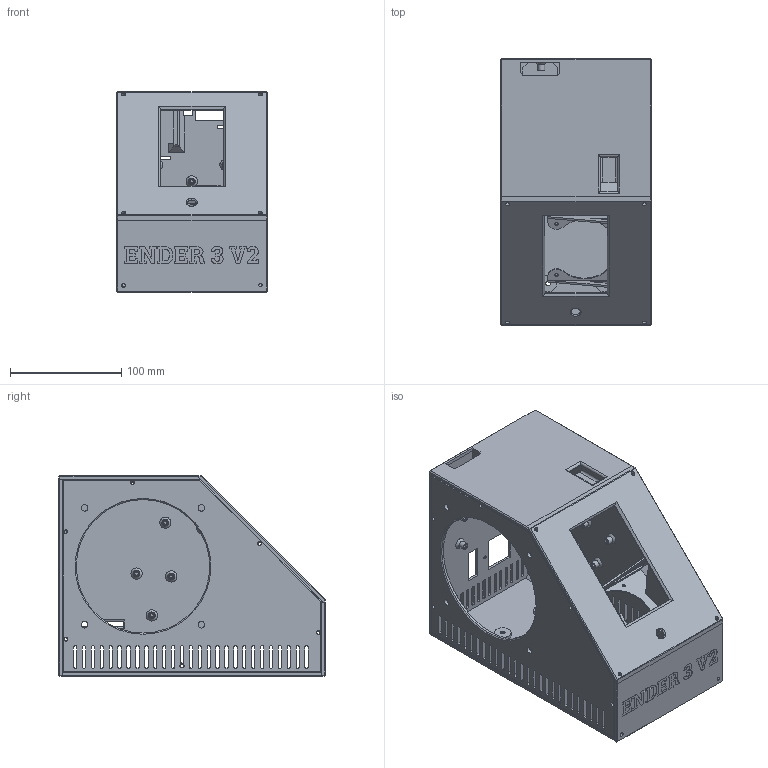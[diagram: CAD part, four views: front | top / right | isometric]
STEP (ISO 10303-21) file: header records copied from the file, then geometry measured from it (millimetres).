
FILE_DESCRIPTION(/* description */ ('STEP AP214'),/* implementation_level */ '2;1');
FILE_NAME(/* name */ '602a65641fb658149f66dbf4',/* time_stamp */ '2021-02-15T12:13:27+00:00',/* author */ (''),/* organization */ (''),/* preprocessor_version */ 'ST-DEVELOPER v18.1',/* originating_system */ ' ',/* authorisation */ ' ');
FILE_SCHEMA (('AUTOMOTIVE_DESIGN {1 0 10303 214 3 1 1}'));
Length unit declared in the file: metre
Products named in the file (7): Ebottom; EFace; ETop; Eback; EFront; ERight; ELeft
Bounding box: 135.4 x 239.4 x 180 mm (x, y, z)
Volume: 500006.7 mm3; surface area: 345257.7 mm2
Topology: 7 solids, 7 shells, 1474 faces, 3935 edges, 2573 vertices
Faces by surface type: plane 879, cylinder 440, cone 94, bspline 61
Full cylindrical faces by diameter (mm): 2.9 x63, 3.4 x19, 4.3 x4, 5.9 x4, 6 x5, 6.1 x29, 8 x1, 15 x4, 120 x1
Entity records: 45186 total; most frequent: CARTESIAN_POINT 8383, DIRECTION 7348, ORIENTED_EDGE 7336, EDGE_CURVE 3668, LINE 2574, VECTOR 2574, VERTEX_POINT 2528, AXIS2_PLACEMENT_3D 2387
